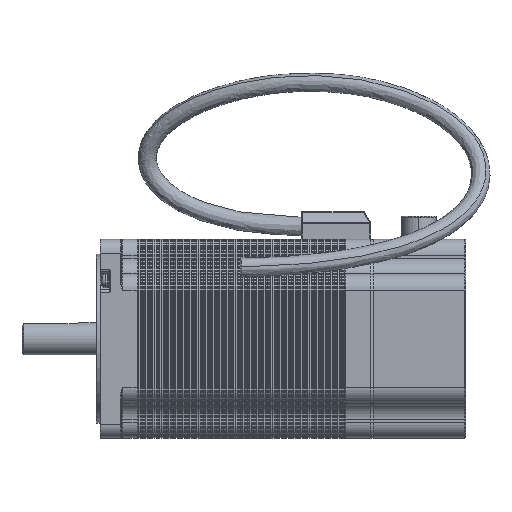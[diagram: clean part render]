
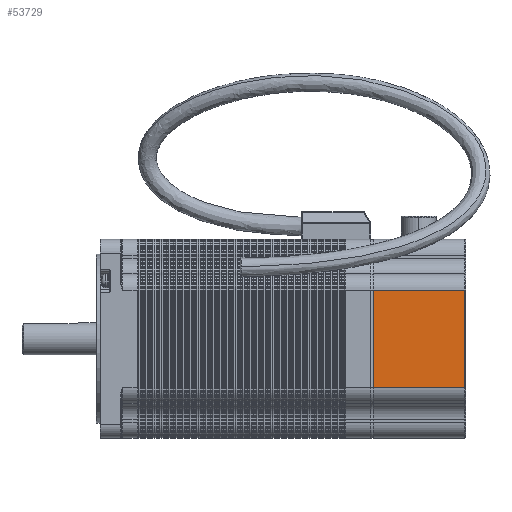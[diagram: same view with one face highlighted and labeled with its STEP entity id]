
A CAD part, left-side view. The second image highlights one B-rep face of the part: STEP entity #53729.
In plain terms, the highlighted planar face has unit normal (-1, 0, 0).
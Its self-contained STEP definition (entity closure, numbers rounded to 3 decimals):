
#1042 = CARTESIAN_POINT ( 'NONE',  ( -43., -118., 21. ) ) ;
#21957 = VECTOR ( 'NONE', #273706, 1000. ) ;
#25079 = LINE ( 'NONE', #274114, #200990 ) ;
#38504 = CARTESIAN_POINT ( 'NONE',  ( -43., -157.5, -21. ) ) ;
#39833 = CARTESIAN_POINT ( 'NONE',  ( -43., -158., 21. ) ) ;
#42643 = DIRECTION ( 'NONE',  ( 0., 0., -1. ) ) ;
#53729 = ADVANCED_FACE ( 'NONE', ( #233196 ), #305003, .F. ) ;
#65632 = CARTESIAN_POINT ( 'NONE',  ( -43., -118., -21. ) ) ;
#70483 = EDGE_LOOP ( 'NONE', ( #167617, #288409, #178594, #296506 ) ) ;
#75039 = DIRECTION ( 'NONE',  ( 0., 1., 0. ) ) ;
#78484 = EDGE_CURVE ( 'NONE', #156886, #78921, #81980, .T. ) ;
#78921 = VERTEX_POINT ( 'NONE', #1042 ) ;
#79064 = EDGE_CURVE ( 'NONE', #163207, #156886, #25079, .T. ) ;
#81980 = LINE ( 'NONE', #297652, #21957 ) ;
#115480 = VECTOR ( 'NONE', #75039, 1000. ) ;
#145275 = DIRECTION ( 'NONE',  ( 0., 0., -1. ) ) ;
#155285 = CARTESIAN_POINT ( 'NONE',  ( -43., -157.5, 21. ) ) ;
#156886 = VERTEX_POINT ( 'NONE', #155285 ) ;
#163207 = VERTEX_POINT ( 'NONE', #38504 ) ;
#167617 = ORIENTED_EDGE ( 'NONE', *, *, #295380, .F. ) ;
#170388 = AXIS2_PLACEMENT_3D ( 'NONE', #39833, #287370, #145275 ) ;
#173680 = DIRECTION ( 'NONE',  ( 0., 0., 1. ) ) ;
#177231 = LINE ( 'NONE', #245943, #115480 ) ;
#178594 = ORIENTED_EDGE ( 'NONE', *, *, #78484, .T. ) ;
#189094 = EDGE_CURVE ( 'NONE', #78921, #305831, #288594, .T. ) ;
#192817 = CARTESIAN_POINT ( 'NONE',  ( -43., -118., 21. ) ) ;
#200990 = VECTOR ( 'NONE', #173680, 1000. ) ;
#233196 = FACE_OUTER_BOUND ( 'NONE', #70483, .T. ) ;
#245943 = CARTESIAN_POINT ( 'NONE',  ( -43., -158., -21. ) ) ;
#246846 = VECTOR ( 'NONE', #42643, 1000. ) ;
#273706 = DIRECTION ( 'NONE',  ( 0., 1., 0. ) ) ;
#274114 = CARTESIAN_POINT ( 'NONE',  ( -43., -157.5, 21. ) ) ;
#287370 = DIRECTION ( 'NONE',  ( 1., 0., 0. ) ) ;
#288409 = ORIENTED_EDGE ( 'NONE', *, *, #79064, .T. ) ;
#288594 = LINE ( 'NONE', #192817, #246846 ) ;
#295380 = EDGE_CURVE ( 'NONE', #163207, #305831, #177231, .T. ) ;
#296506 = ORIENTED_EDGE ( 'NONE', *, *, #189094, .T. ) ;
#297652 = CARTESIAN_POINT ( 'NONE',  ( -43., -158., 21. ) ) ;
#305003 = PLANE ( 'NONE',  #170388 ) ;
#305831 = VERTEX_POINT ( 'NONE', #65632 ) ;
